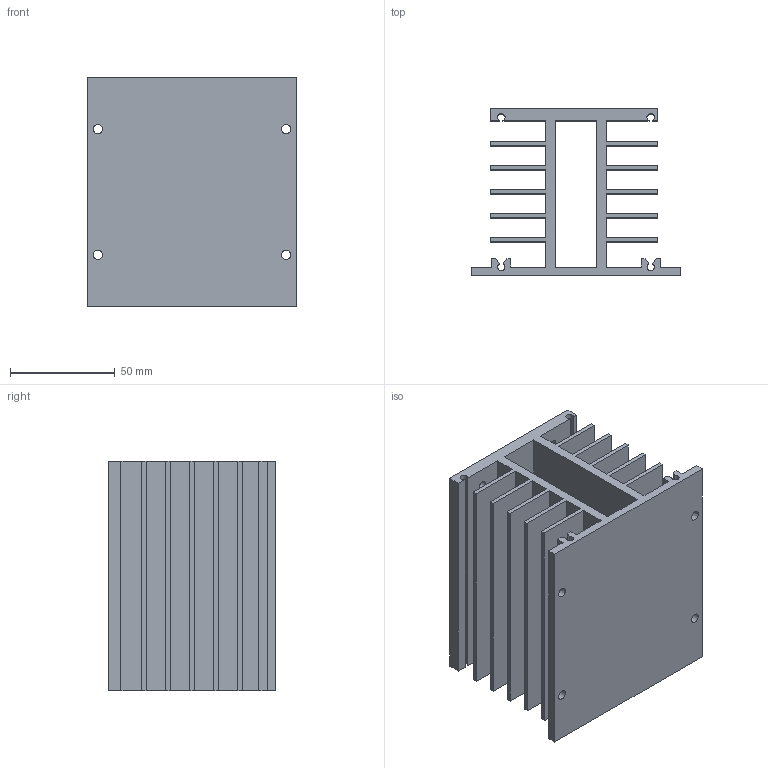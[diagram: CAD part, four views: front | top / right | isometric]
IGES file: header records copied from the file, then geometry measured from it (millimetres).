
Global section: file name: Filename.iges; native system: Open CASCADE 7.3; preprocessor: Open CASCADE IGES processor 7.3; date: 20201105.091530; units: millimetre
Bounding box: 100 x 80 x 110 mm (x, y, z)
Surface area: 136863.6 mm2 (no closed solid volume)
Topology: 0 solids, 0 shells, 88 faces, 534 edges, 523 vertices
Faces by surface type: plane 74, revolution 14
